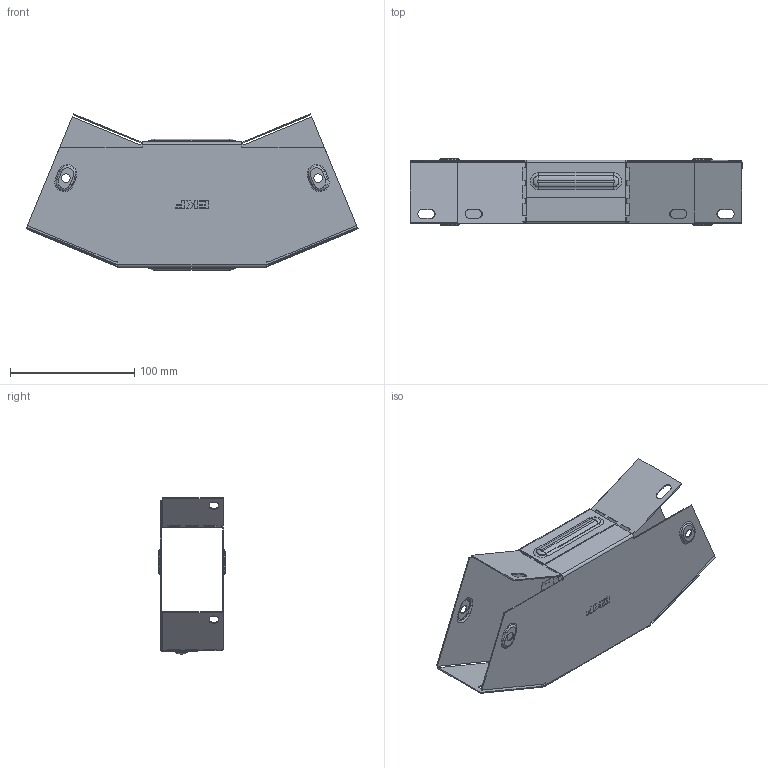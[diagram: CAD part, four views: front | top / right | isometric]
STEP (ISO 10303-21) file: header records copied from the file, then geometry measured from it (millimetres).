
FILE_DESCRIPTION (( 'STEP AP214' ), '1' );
FILE_NAME ('g4550100_捘.STEP', '2019-06-10T08:36:20', ( '砐錪賧瘔蠈錪 Windows' ), ( '' ), 'SwSTEP 2.0', 'SolidWorks 2018', '' );
FILE_SCHEMA (( 'AUTOMOTIVE_DESIGN' ));
Length unit declared in the file: millimetre
Products named in the file (1): g4550100_捘
Bounding box: 266.88 x 53.8 x 125.42 mm (x, y, z)
Volume: 58558.4 mm3; surface area: 148589.3 mm2
Topology: 2 solids, 2 shells, 492 faces, 1328 edges, 844 vertices
Faces by surface type: plane 274, cylinder 136, torus 64, bspline 18
Entity records: 16324 total; most frequent: CARTESIAN_POINT 3684, ORIENTED_EDGE 2656, DIRECTION 2610, EDGE_CURVE 1328, VECTOR 924, LINE 924, VERTEX_POINT 844, AXIS2_PLACEMENT_3D 843
